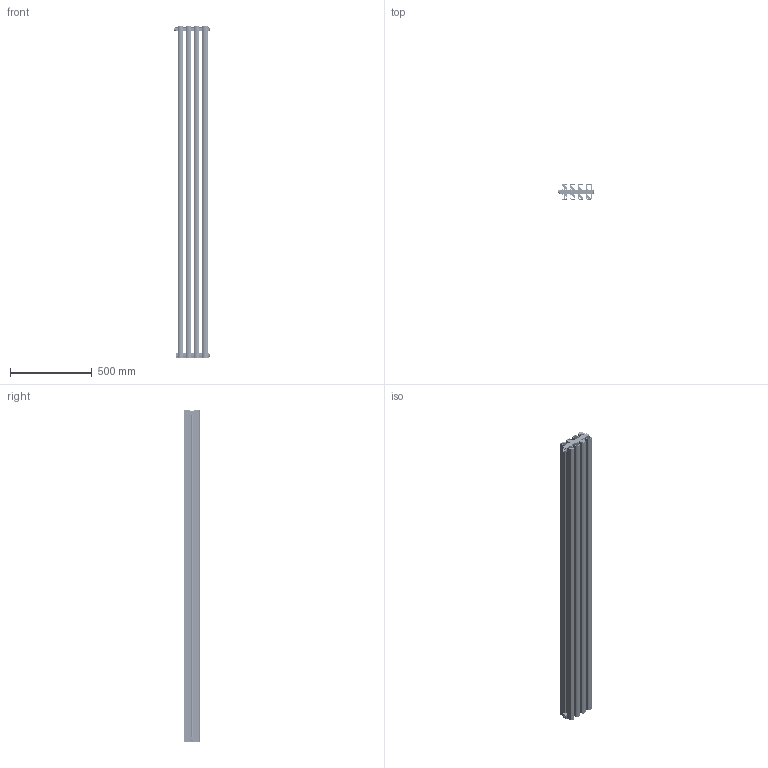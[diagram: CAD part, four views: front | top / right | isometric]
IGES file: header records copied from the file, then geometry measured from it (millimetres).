
Start section: SolidWorks IGES file using analytic representation for surfaces
Global section: file name: S:\RicercaSviluppo\01_DISEGNI\2_DISEGNI\02_ELEMENTI\39_TONALE\39_99_RICHIESTE CLIENTI\39_99_DRL\22-07-24\TONALE 2000_4.IGS; native system: SolidWorks 2024; preprocessor: SolidWorks 2024; author: massimo; date: 240722.103252; units: millimetre
Bounding box: 216.3 x 95 x 2037 mm (x, y, z)
Surface area: 5890168.3 mm2 (no closed solid volume)
Topology: 0 solids, 0 shells, 2616 faces, 32123 edges, 32075 vertices
Faces by surface type: bspline 1338, revolution 1278
